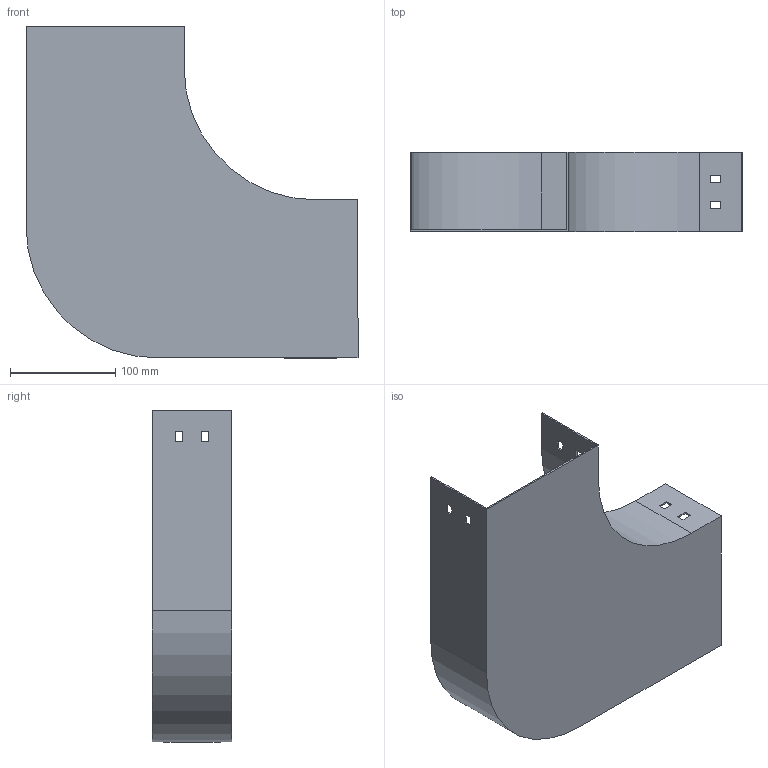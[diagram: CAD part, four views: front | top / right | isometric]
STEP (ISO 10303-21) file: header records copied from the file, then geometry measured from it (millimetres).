
FILE_DESCRIPTION (( 'STEP AP214' ), '1' );
FILE_NAME ('P9_157.step', '2025-07-16T09:20:29', ( '' ), ( '' ), 'SwSTEP 2.0', 'SolidWorks 2023', '' );
FILE_SCHEMA (( 'AUTOMOTIVE_DESIGN' ));
Length unit declared in the file: millimetre
Products named in the file (1): P9_157
Bounding box: 315 x 75 x 315 mm (x, y, z)
Volume: 201170.1 mm3; surface area: 270804.8 mm2
Topology: 1 solids, 1 shells, 50 faces, 144 edges, 96 vertices
Faces by surface type: plane 46, cylinder 4
Entity records: 1671 total; most frequent: CARTESIAN_POINT 291, ORIENTED_EDGE 288, DIRECTION 254, EDGE_CURVE 144, VECTOR 136, LINE 136, VERTEX_POINT 96, EDGE_LOOP 66
